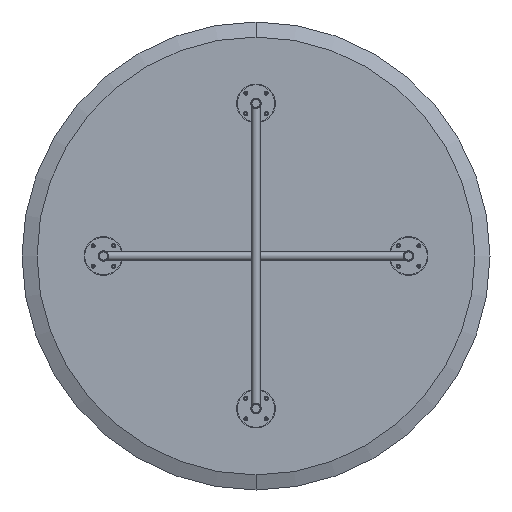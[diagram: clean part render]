
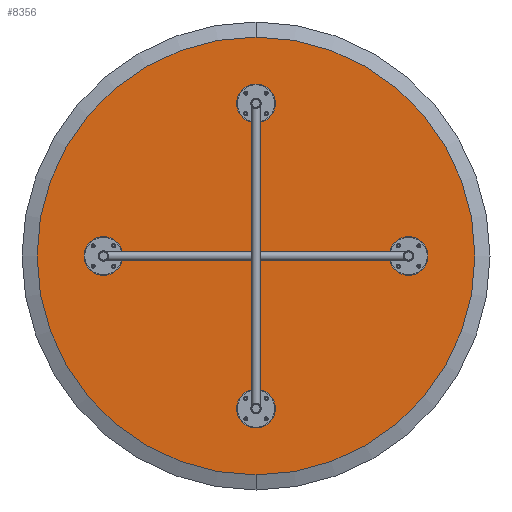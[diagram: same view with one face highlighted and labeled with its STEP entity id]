
A CAD part, front view. The second image highlights one B-rep face of the part: STEP entity #8356.
In plain terms, the highlighted planar face has unit normal (0, -1, 0).
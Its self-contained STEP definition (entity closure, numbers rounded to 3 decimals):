
#198 = PLANE ( 'NONE',  #4191 ) ;
#244 = FACE_BOUND ( 'NONE', #7245, .T. ) ;
#319 = DIRECTION ( 'NONE',  ( 0., -1., 0. ) ) ;
#352 = AXIS2_PLACEMENT_3D ( 'NONE', #7941, #7276, #1272 ) ;
#484 = DIRECTION ( 'NONE',  ( 0., -1., 0. ) ) ;
#674 = CARTESIAN_POINT ( 'NONE',  ( 0., 0., 450. ) ) ;
#739 = CARTESIAN_POINT ( 'NONE',  ( 0., 0., 0. ) ) ;
#786 = EDGE_CURVE ( 'NONE', #5648, #4693, #6284, .T. ) ;
#811 = DIRECTION ( 'NONE',  ( 0., 0., 1. ) ) ;
#841 = CARTESIAN_POINT ( 'NONE',  ( 450., 0., -57. ) ) ;
#848 = DIRECTION ( 'NONE',  ( 0., 0., -1. ) ) ;
#1167 = CARTESIAN_POINT ( 'NONE',  ( 0., 0., -450. ) ) ;
#1172 = CARTESIAN_POINT ( 'NONE',  ( 0., 0., 507. ) ) ;
#1272 = DIRECTION ( 'NONE',  ( 0., 0., -1. ) ) ;
#1363 = DIRECTION ( 'NONE',  ( 0., -1., 0. ) ) ;
#1436 = FACE_OUTER_BOUND ( 'NONE', #1832, .T. ) ;
#1578 = EDGE_CURVE ( 'NONE', #3722, #7321, #5003, .T. ) ;
#1706 = ORIENTED_EDGE ( 'NONE', *, *, #7545, .F. ) ;
#1812 = CIRCLE ( 'NONE', #3218, 57. ) ;
#1832 = EDGE_LOOP ( 'NONE', ( #4025, #6086 ) ) ;
#1835 = CARTESIAN_POINT ( 'NONE',  ( -450., 0., 0. ) ) ;
#1853 = DIRECTION ( 'NONE',  ( 0., 0., -1. ) ) ;
#1892 = CIRCLE ( 'NONE', #352, 57. ) ;
#1943 = AXIS2_PLACEMENT_3D ( 'NONE', #5798, #319, #5667 ) ;
#1955 = ORIENTED_EDGE ( 'NONE', *, *, #5183, .F. ) ;
#2126 = FACE_BOUND ( 'NONE', #4814, .T. ) ;
#2522 = ORIENTED_EDGE ( 'NONE', *, *, #1578, .F. ) ;
#2871 = DIRECTION ( 'NONE',  ( 0., 1., 0. ) ) ;
#2881 = CARTESIAN_POINT ( 'NONE',  ( 450., 0., 0. ) ) ;
#2894 = DIRECTION ( 'NONE',  ( 0., -1., 0. ) ) ;
#3110 = EDGE_LOOP ( 'NONE', ( #1955, #2522 ) ) ;
#3117 = VERTEX_POINT ( 'NONE', #841 ) ;
#3128 = EDGE_CURVE ( 'NONE', #3183, #3117, #1812, .T. ) ;
#3136 = VERTEX_POINT ( 'NONE', #4223 ) ;
#3183 = VERTEX_POINT ( 'NONE', #3429 ) ;
#3218 = AXIS2_PLACEMENT_3D ( 'NONE', #7602, #2894, #4932 ) ;
#3256 = CARTESIAN_POINT ( 'NONE',  ( 0., 0., 393. ) ) ;
#3418 = DIRECTION ( 'NONE',  ( 0., 0., 1. ) ) ;
#3429 = CARTESIAN_POINT ( 'NONE',  ( 450., 0., 57. ) ) ;
#3448 = EDGE_CURVE ( 'NONE', #5694, #3573, #6234, .T. ) ;
#3526 = DIRECTION ( 'NONE',  ( 0., -1., 0. ) ) ;
#3573 = VERTEX_POINT ( 'NONE', #8195 ) ;
#3638 = CIRCLE ( 'NONE', #4488, 57. ) ;
#3722 = VERTEX_POINT ( 'NONE', #6928 ) ;
#3974 = DIRECTION ( 'NONE',  ( 0., 0., -1. ) ) ;
#4025 = ORIENTED_EDGE ( 'NONE', *, *, #4492, .T. ) ;
#4082 = EDGE_CURVE ( 'NONE', #3117, #3183, #5653, .T. ) ;
#4191 = AXIS2_PLACEMENT_3D ( 'NONE', #739, #2871, #811 ) ;
#4223 = CARTESIAN_POINT ( 'NONE',  ( 0., 0., -393. ) ) ;
#4438 = AXIS2_PLACEMENT_3D ( 'NONE', #4891, #6742, #848 ) ;
#4488 = AXIS2_PLACEMENT_3D ( 'NONE', #5244, #6657, #7962 ) ;
#4492 = EDGE_CURVE ( 'NONE', #3573, #5694, #8375, .T. ) ;
#4552 = CARTESIAN_POINT ( 'NONE',  ( 0., 0., -645.45 ) ) ;
#4569 = AXIS2_PLACEMENT_3D ( 'NONE', #4745, #1363, #3418 ) ;
#4693 = VERTEX_POINT ( 'NONE', #3256 ) ;
#4744 = AXIS2_PLACEMENT_3D ( 'NONE', #674, #7863, #1853 ) ;
#4745 = CARTESIAN_POINT ( 'NONE',  ( 0., 0., 0. ) ) ;
#4814 = EDGE_LOOP ( 'NONE', ( #8058, #8377 ) ) ;
#4846 = VERTEX_POINT ( 'NONE', #5854 ) ;
#4891 = CARTESIAN_POINT ( 'NONE',  ( -450., 0., 0. ) ) ;
#4932 = DIRECTION ( 'NONE',  ( 0., 0., -1. ) ) ;
#5003 = CIRCLE ( 'NONE', #4438, 57. ) ;
#5183 = EDGE_CURVE ( 'NONE', #7321, #3722, #7363, .T. ) ;
#5244 = CARTESIAN_POINT ( 'NONE',  ( 0., 0., 450. ) ) ;
#5400 = EDGE_CURVE ( 'NONE', #4846, #3136, #1892, .T. ) ;
#5648 = VERTEX_POINT ( 'NONE', #1172 ) ;
#5653 = CIRCLE ( 'NONE', #5732, 57. ) ;
#5667 = DIRECTION ( 'NONE',  ( 0., 0., 1. ) ) ;
#5694 = VERTEX_POINT ( 'NONE', #4552 ) ;
#5732 = AXIS2_PLACEMENT_3D ( 'NONE', #2881, #8361, #8273 ) ;
#5798 = CARTESIAN_POINT ( 'NONE',  ( 0., 0., 0. ) ) ;
#5814 = ORIENTED_EDGE ( 'NONE', *, *, #786, .F. ) ;
#5854 = CARTESIAN_POINT ( 'NONE',  ( 0., 0., -507. ) ) ;
#5937 = EDGE_LOOP ( 'NONE', ( #1706, #5814 ) ) ;
#5963 = CARTESIAN_POINT ( 'NONE',  ( -450., 0., -57. ) ) ;
#5995 = ORIENTED_EDGE ( 'NONE', *, *, #3128, .F. ) ;
#6031 = CIRCLE ( 'NONE', #8253, 57. ) ;
#6086 = ORIENTED_EDGE ( 'NONE', *, *, #3448, .T. ) ;
#6178 = FACE_BOUND ( 'NONE', #3110, .T. ) ;
#6234 = CIRCLE ( 'NONE', #4569, 645.45 ) ;
#6261 = FACE_BOUND ( 'NONE', #5937, .T. ) ;
#6284 = CIRCLE ( 'NONE', #4744, 57. ) ;
#6657 = DIRECTION ( 'NONE',  ( 0., -1., 0. ) ) ;
#6742 = DIRECTION ( 'NONE',  ( 0., -1., 0. ) ) ;
#6764 = ORIENTED_EDGE ( 'NONE', *, *, #4082, .F. ) ;
#6928 = CARTESIAN_POINT ( 'NONE',  ( -450., 0., 57. ) ) ;
#7060 = DIRECTION ( 'NONE',  ( 0., 0., -1. ) ) ;
#7245 = EDGE_LOOP ( 'NONE', ( #6764, #5995 ) ) ;
#7276 = DIRECTION ( 'NONE',  ( 0., -1., 0. ) ) ;
#7321 = VERTEX_POINT ( 'NONE', #5963 ) ;
#7363 = CIRCLE ( 'NONE', #8461, 57. ) ;
#7541 = EDGE_CURVE ( 'NONE', #3136, #4846, #6031, .T. ) ;
#7545 = EDGE_CURVE ( 'NONE', #4693, #5648, #3638, .T. ) ;
#7602 = CARTESIAN_POINT ( 'NONE',  ( 450., 0., 0. ) ) ;
#7863 = DIRECTION ( 'NONE',  ( 0., -1., 0. ) ) ;
#7941 = CARTESIAN_POINT ( 'NONE',  ( 0., 0., -450. ) ) ;
#7962 = DIRECTION ( 'NONE',  ( 0., 0., -1. ) ) ;
#8058 = ORIENTED_EDGE ( 'NONE', *, *, #5400, .F. ) ;
#8195 = CARTESIAN_POINT ( 'NONE',  ( 0., 0., 645.45 ) ) ;
#8253 = AXIS2_PLACEMENT_3D ( 'NONE', #1167, #3526, #3974 ) ;
#8273 = DIRECTION ( 'NONE',  ( 0., 0., -1. ) ) ;
#8356 = ADVANCED_FACE ( 'NONE', ( #2126, #6261, #6178, #244, #1436 ), #198, .F. ) ;
#8361 = DIRECTION ( 'NONE',  ( 0., -1., 0. ) ) ;
#8375 = CIRCLE ( 'NONE', #1943, 645.45 ) ;
#8377 = ORIENTED_EDGE ( 'NONE', *, *, #7541, .F. ) ;
#8461 = AXIS2_PLACEMENT_3D ( 'NONE', #1835, #484, #7060 ) ;
